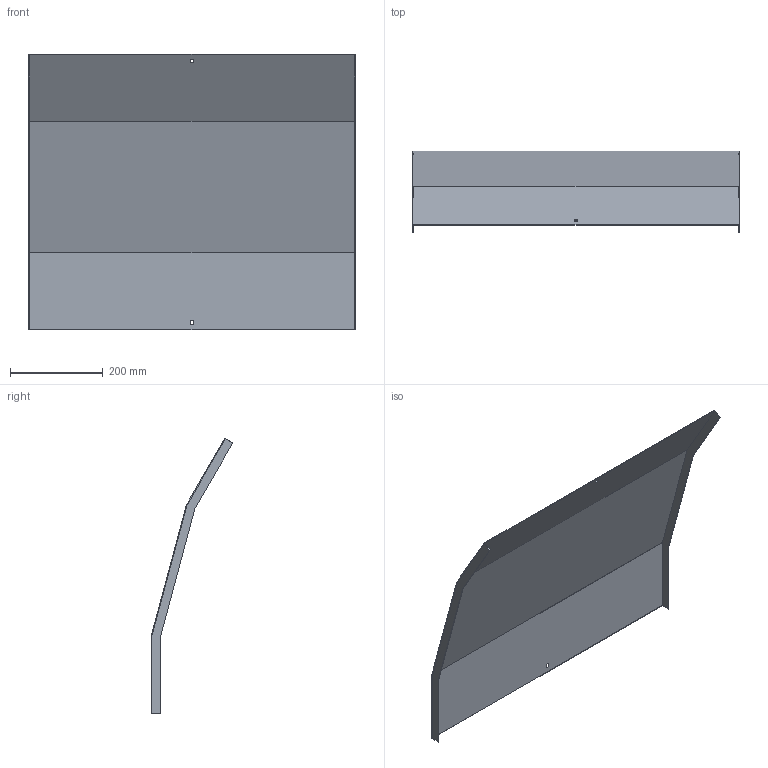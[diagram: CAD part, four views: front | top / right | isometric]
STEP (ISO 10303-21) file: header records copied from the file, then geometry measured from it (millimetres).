
FILE_DESCRIPTION (( 'STEP AP214' ), '1' );
FILE_NAME ('35N5J700.step', '2025-02-21T10:29:52', ( '' ), ( '' ), 'SwSTEP 2.0', 'SolidWorks 2023', '' );
FILE_SCHEMA (( 'AUTOMOTIVE_DESIGN' ));
Length unit declared in the file: millimetre
Products named in the file (1): 35N5J700
Bounding box: 703 x 176.54 x 594.21 mm (x, y, z)
Volume: 694544.6 mm3; surface area: 930221.6 mm2
Topology: 1 solids, 1 shells, 26 faces, 72 edges, 48 vertices
Faces by surface type: plane 26
Entity records: 847 total; most frequent: CARTESIAN_POINT 147, ORIENTED_EDGE 144, DIRECTION 126, VECTOR 72, EDGE_CURVE 72, LINE 72, VERTEX_POINT 48, EDGE_LOOP 30
